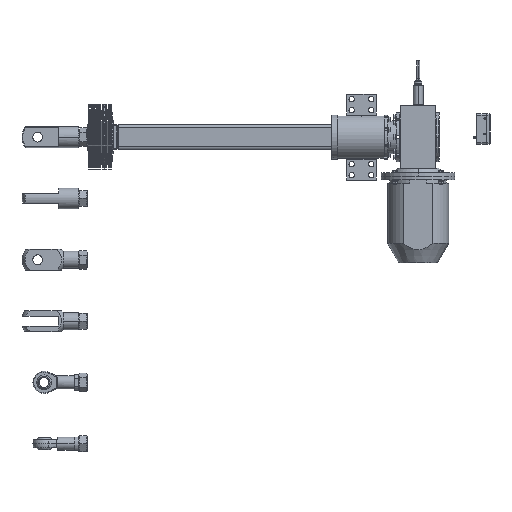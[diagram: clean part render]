
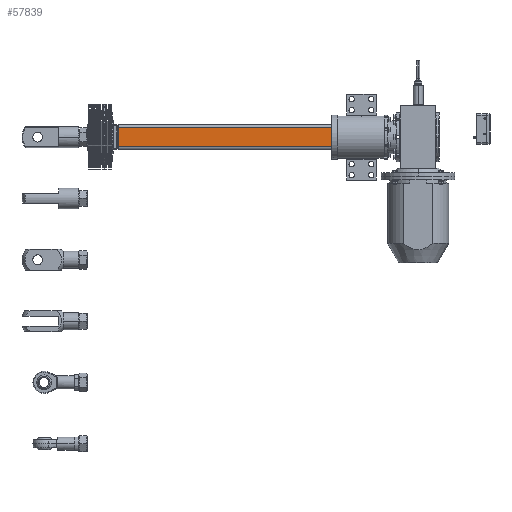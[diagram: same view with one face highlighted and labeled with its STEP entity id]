
A CAD part, front view. The second image highlights one B-rep face of the part: STEP entity #57839.
In plain terms, the highlighted planar face has unit normal (0, -1, 0).
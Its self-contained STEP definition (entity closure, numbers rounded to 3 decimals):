
#9173 = FACE_OUTER_BOUND ( 'NONE', #40749, .T. ) ;
#11365 = EDGE_CURVE ( 'NONE', #43503, #43513, #22241, .T. ) ;
#11399 = EDGE_CURVE ( 'NONE', #43503, #37795, #29626, .T. ) ;
#11400 = EDGE_CURVE ( 'NONE', #37795, #43525, #29624, .T. ) ;
#11401 = EDGE_CURVE ( 'NONE', #43513, #43525, #29629, .T. ) ;
#15206 = CARTESIAN_POINT ( 'NONE',  ( 2., -50., 40. ) ) ;
#15607 = AXIS2_PLACEMENT_3D ( 'NONE', #49415, #49424, #49431 ) ;
#16163 = CARTESIAN_POINT ( 'NONE',  ( 880., -50., 40. ) ) ;
#16181 = CARTESIAN_POINT ( 'NONE',  ( 880., -50., -40. ) ) ;
#16202 = CARTESIAN_POINT ( 'NONE',  ( 2., -50., -40. ) ) ;
#22241 = LINE ( 'NONE', #32703, #22243 ) ;
#22243 = VECTOR ( 'NONE', #32704, 1000. ) ;
#29624 = LINE ( 'NONE', #32793, #29630 ) ;
#29626 = LINE ( 'NONE', #32791, #29628 ) ;
#29628 = VECTOR ( 'NONE', #32786, 1000. ) ;
#29629 = LINE ( 'NONE', #32799, #29632 ) ;
#29630 = VECTOR ( 'NONE', #32798, 1000. ) ;
#29632 = VECTOR ( 'NONE', #32801, 1000. ) ;
#32703 = CARTESIAN_POINT ( 'NONE',  ( 880., -50., 40. ) ) ;
#32704 = DIRECTION ( 'NONE',  ( 0., 0., -1. ) ) ;
#32786 = DIRECTION ( 'NONE',  ( -1., 0., 0. ) ) ;
#32791 = CARTESIAN_POINT ( 'NONE',  ( 880., -50., 40. ) ) ;
#32793 = CARTESIAN_POINT ( 'NONE',  ( 2., -50., 40. ) ) ;
#32798 = DIRECTION ( 'NONE',  ( 0., 0., -1. ) ) ;
#32799 = CARTESIAN_POINT ( 'NONE',  ( 880., -50., -40. ) ) ;
#32801 = DIRECTION ( 'NONE',  ( -1., 0., 0. ) ) ;
#37795 = VERTEX_POINT ( 'NONE', #15206 ) ;
#40332 = ORIENTED_EDGE ( 'NONE', *, *, #11399, .T. ) ;
#40334 = ORIENTED_EDGE ( 'NONE', *, *, #11400, .T. ) ;
#40336 = ORIENTED_EDGE ( 'NONE', *, *, #11401, .F. ) ;
#40338 = ORIENTED_EDGE ( 'NONE', *, *, #11365, .F. ) ;
#40749 = EDGE_LOOP ( 'NONE', ( #40332, #40334, #40336, #40338 ) ) ;
#43503 = VERTEX_POINT ( 'NONE', #16163 ) ;
#43513 = VERTEX_POINT ( 'NONE', #16181 ) ;
#43525 = VERTEX_POINT ( 'NONE', #16202 ) ;
#49415 = CARTESIAN_POINT ( 'NONE',  ( 880., -50., 40. ) ) ;
#49424 = DIRECTION ( 'NONE',  ( 0., 1., 0. ) ) ;
#49427 = PLANE ( 'NONE',  #15607 ) ;
#49431 = DIRECTION ( 'NONE',  ( 0., 0., 1. ) ) ;
#57839 = ADVANCED_FACE ( 'NONE', ( #9173 ), #49427, .F. ) ;
